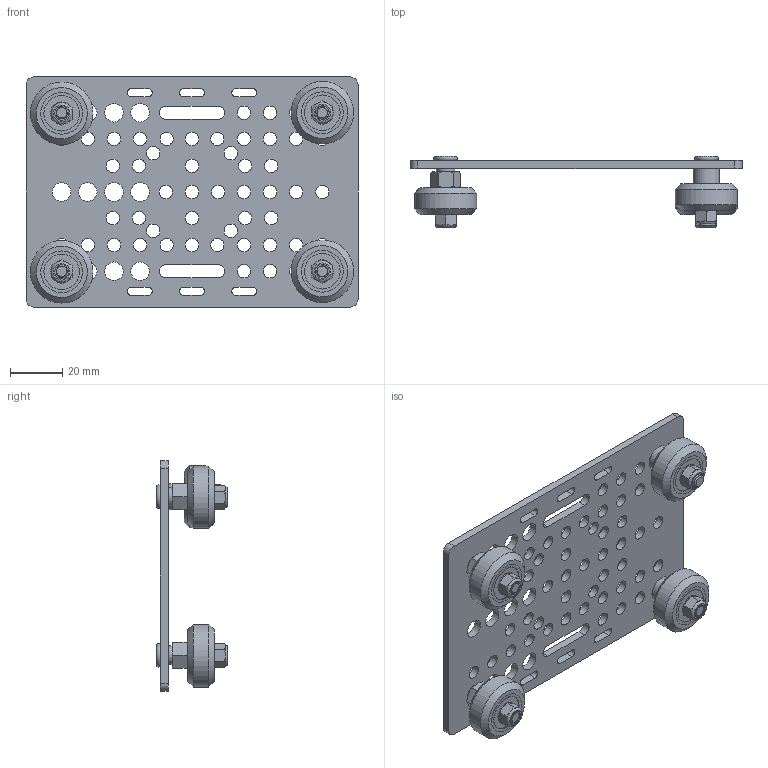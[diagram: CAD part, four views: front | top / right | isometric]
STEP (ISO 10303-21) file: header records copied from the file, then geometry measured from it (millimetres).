
FILE_DESCRIPTION(('FreeCAD Model'),'2;1');
FILE_NAME('Open CASCADE Shape Model','2021-05-04T09:02:24',('Author'),( ''),'Open CASCADE STEP processor 7.5','FreeCAD','Unknown');
FILE_SCHEMA(('AUTOMOTIVE_DESIGN { 1 0 10303 214 1 1 1 1 }'));
Length unit declared in the file: millimetre
Products named in the file (9): V-Slot Gantry Kit - Universal v2; Low Profile Screw M5 v1; Nylon Insert Lock Nut M5 v1; Aluminum Spacer 6mm v1; Ball Bearing 5 x 16 x 5 v1; Precision Shim 8 x 5 x 1 v1; Eccentric Spacer 6mm v1; Xtreme Solid V Wheel v1; V-Slot Gantry Plate 20-80mm v1
Assembly tree (29 placements, depth 2):
  V-Slot Gantry Kit - Universal v2
    Low Profile Screw M5 v1  x4
    Nylon Insert Lock Nut M5 v1  x4
    Aluminum Spacer 6mm v1  x2
    Ball Bearing 5 x 16 x 5 v1  x8
    Precision Shim 8 x 5 x 1 v1  x4
    Eccentric Spacer 6mm v1  x2
    Xtreme Solid V Wheel v1  x4
    V-Slot Gantry Plate 20-80mm v1
Bounding box: 127 x 27.1 x 88 mm (x, y, z)
Volume: 48276.4 mm3; surface area: 41953.7 mm2
Topology: 29 solids, 29 shells, 479 faces, 1261 edges, 898 vertices
Faces by surface type: plane 196, cylinder 179, cone 96, torus 8
Full cylindrical faces by diameter (mm): 4.25 x4, 5 x22, 5.1 x53, 5.3 x4, 7.1 x12, 7.11 x2, 8 x4, 8.6 x16, 10 x2, 13.6 x16, 14 x4, 16 x16, 23.9 x4
Entity records: 17645 total; most frequent: CARTESIAN_POINT 5521, DIRECTION 2173, ORIENTED_EDGE 1196, PCURVE 1196, DEFINITIONAL_REPRESENTATION 1196, LINE 978, VECTOR 978, EDGE_CURVE 598
